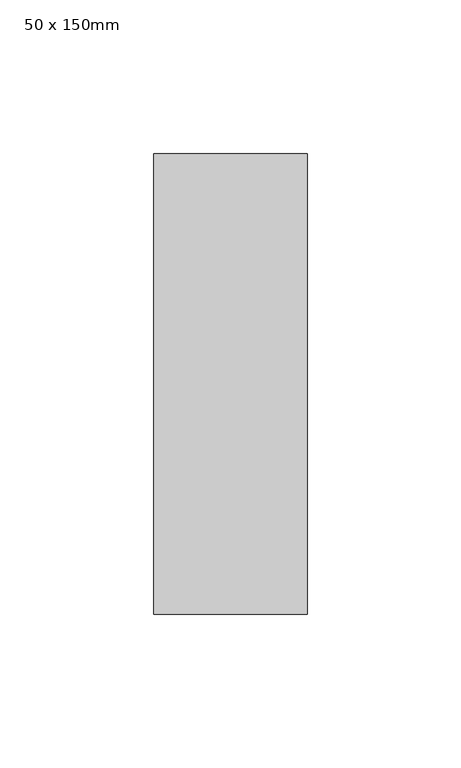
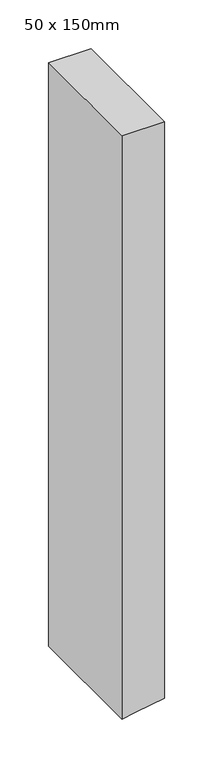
"""IFC4 building model written with IfcOpenShell, lengths in millimetres: member geometry, 矩形豎框 : 50 x 150mm."""

from ifc_helpers import new_model, si_unit, frame, origin, place, context, project, spatial, polyline, outline, extrude, source, transform, mapped, element, save


def member_50_x_150mm_df28c177(model_context):
    return source(origin(), model_context, "Body", "SweptSolid", [
        extrude(outline(polyline([(0.0, 25.0), (0.0, -25.0), (-728.6730044, -25.0), (-725.7957728, -8.6824089), (-719.8566553, 25.0), (0.0, 25.0)])), frame((0.0, -75.0, 0.0), z_axis=(0.0, 1.0, 0.0), x_axis=(0.0, 0.0, 1.0)), (0.0, 0.0, 1.0), 150.0),
    ])


if __name__ == "__main__":
    model = new_model("IFC4")
    model_context = context("Model", 3, world=origin())
    ifc_project = project(units=[si_unit("LENGTHUNIT", "METRE", prefix="MILLI")], contexts=[model_context])
    site = spatial("IfcSite", under=ifc_project)
    building = spatial("IfcBuilding", under=site)
    placement = place(None, origin())
    member_50_x_150mm_shape = member_50_x_150mm_df28c177(model_context)
    element("IfcMember", 1, ObjectType="矩形豎框 : 50 x 150mm", at=placement, inside=building, context=model_context, shape_type="MappedRepresentation", body=[
        mapped(member_50_x_150mm_shape, transform((0.0, 0.0, 0.0), x_axis=(1.0, 0.0, 0.0), y_axis=(0.0, 1.0, 0.0), z_axis=(0.0, 0.0, 1.0))),
    ])
    save(model, "model.ifc")
